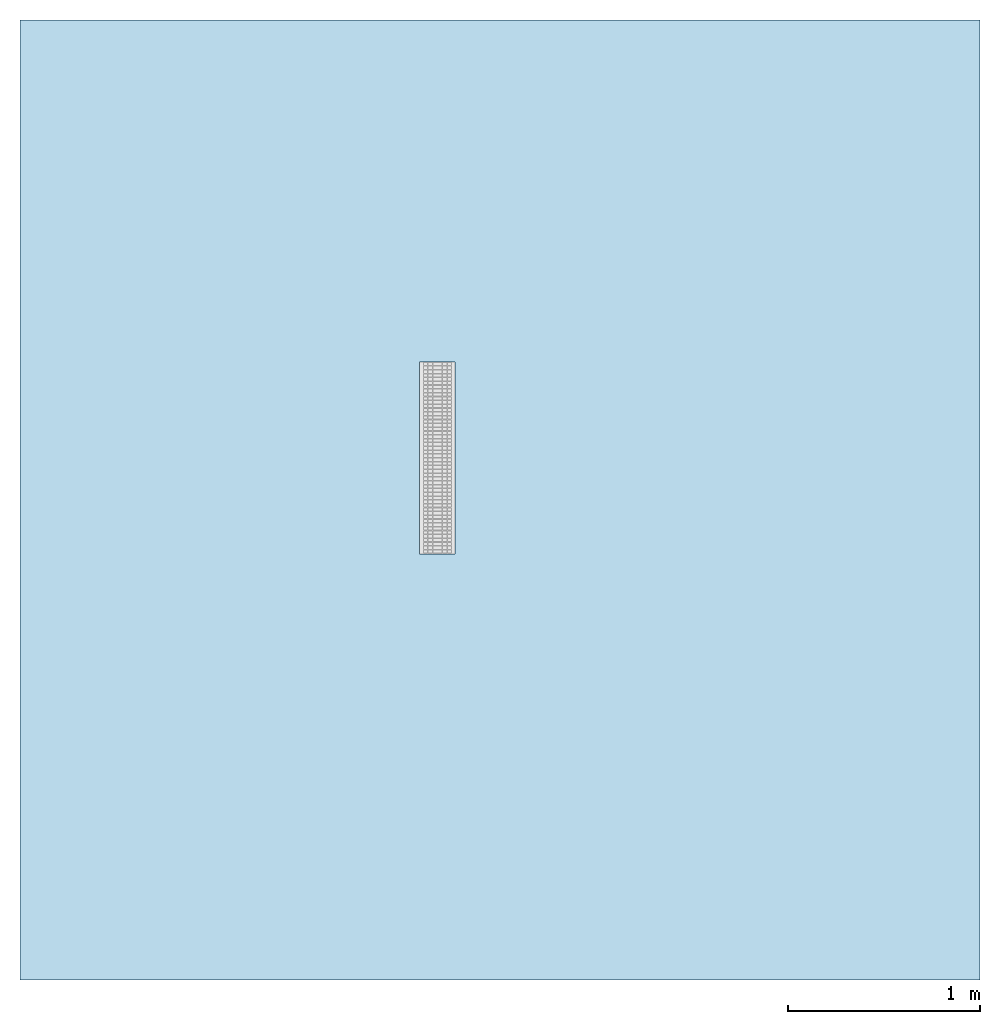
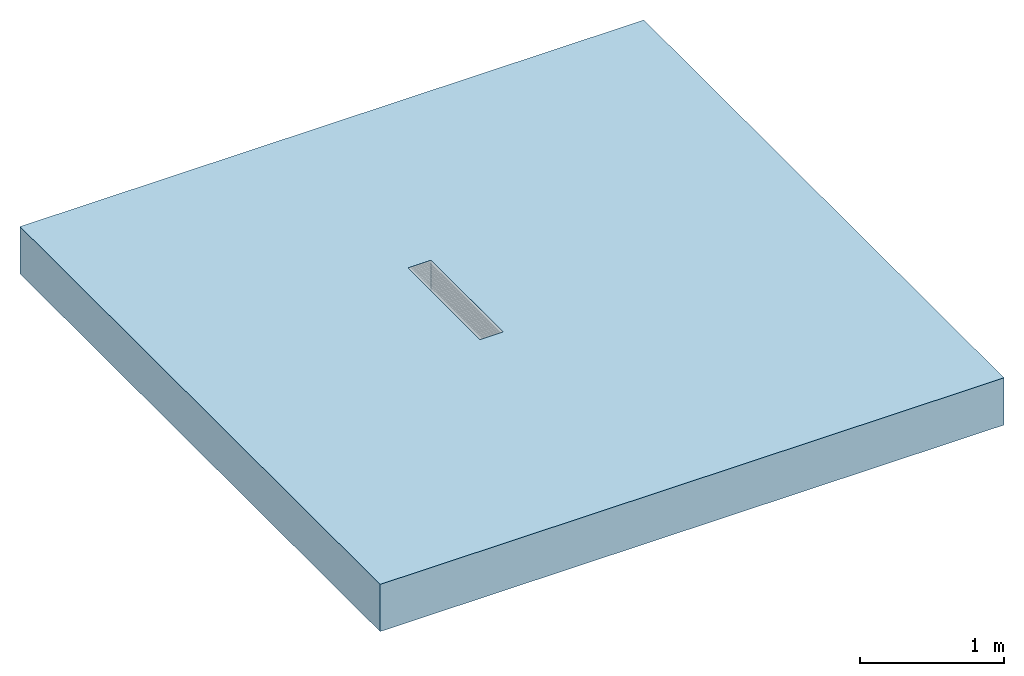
# One storey, incomplete: 1 slab, 1 opening.
"""IFC2X3 building model written with IfcOpenShell, lengths in millimetres."""

from ifc_helpers import new_model, entity, si_unit, converted_unit, direction, frame, frame_2d, origin, origin_2d_with_axis, place, context, subcontext, project, spatial, rectangle, extrude, material, layer, layer_set, layer_usage, element, save


model = new_model("IFC2X3")

# Units and contexts
model_context = context("Model", 3, precision=1e-06, world=origin(), true_north=direction((2.0, 6.12303176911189e-17, 1.0)))
context_of_model = context(None, 3, precision=1e-06, world=origin(), true_north=direction((2.0, 6.12303176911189e-17, 1.0)))
body_context = subcontext(model_context, "Body", "Model", "MODEL_VIEW")
ifc_project = project(units=[si_unit("LENGTHUNIT", "METRE", prefix="MILLI"), si_unit("AREAUNIT", "SQUARE_METRE", prefix="MILLI"), si_unit("VOLUMEUNIT", "CUBIC_METRE", prefix="MILLI"), converted_unit("PLANEANGLEUNIT", "DEGREE", entity("IfcRatioMeasure", 0.0174532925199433), si_unit("PLANEANGLEUNIT", "RADIAN"), dimensions=[0, 0, 0, 0, 0, 0, 0]), si_unit("TIMEUNIT", "SECOND")], contexts=[model_context, context_of_model])

# Site, building, storey
site_placement = place(None, origin())
site = spatial("IfcSite", under=ifc_project, at=site_placement, Name="Default", CompositionType="ELEMENT")
building_placement = place(site_placement, origin())
building = spatial("IfcBuilding", under=site, at=building_placement, CompositionType="ELEMENT")
storey_placement = place(building_placement, origin())
storey = spatial("IfcBuildingStorey", under=building, at=storey_placement, Name="Level 1", CompositionType="ELEMENT", Elevation=0.0)

# Slab, opening
ifc_material = material(Name="Default Roof")
ifc_layer = layer(ifc_material, 400.0)
ifc_layer_set = layer_set([ifc_layer], Name="Floor:Generic Floor - 400mm")
ifc_layer_usage = layer_usage(ifc_layer_set, "AXIS3", "POSITIVE", 0.0)
slab_placement = place(storey_placement, origin())
slab = element("IfcSlab", 1, at=slab_placement, inside=storey, material=ifc_layer_usage, Name="Floor:Generic Floor - 400mm", ObjectType="Floor:Generic Floor - 400mm", PredefinedType="FLOOR", context=body_context, shape_type="SweptSolid", body=[
    extrude(rectangle(XDim=5000.0, YDim=5000.0, at=frame_2d((0.0, 0.0), x_axis=(-1.0, 0.0))), frame((-445.440027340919, -824.330813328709, 0.0), z_axis=(0.0, 0.0, -1.0), x_axis=(-1.0, 0.0, 0.0)), (0.0, 0.0, 1.0), 400.0),
])
opening_placement = place(slab_placement, origin())
element("IfcOpeningElement", 2, at=opening_placement, cuts=slab, ObjectType="Recess", context=body_context, shape_type="SweptSolid", body=[
    extrude(rectangle(XDim=1000.0, YDim=185.0, at=origin_2d_with_axis()), frame((-771.067269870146, -604.358332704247, -260.0), z_axis=(0.0, 0.0, 1.0), x_axis=(0.0, 1.0, 0.0)), (0.0, 0.0, 1.0), 259.999999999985),
])

save(model, "model.ifc")
